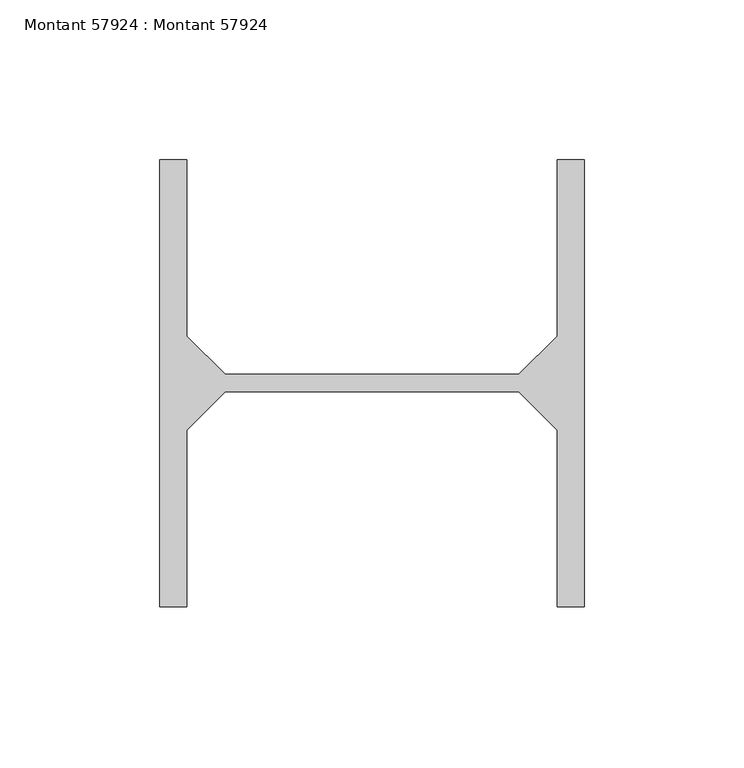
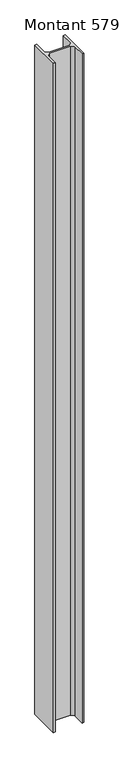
"""IFC4 building model written with IfcOpenShell, lengths in millimetres: beam geometry, Montant 57924 : Montant 57924."""

from ifc_helpers import new_model, si_unit, frame, origin, place, context, project, spatial, polyline, outline, extrude, source, transform, mapped, element, save


def montant_57924_montant_57924_06522adf(model_context):
    return source(origin(), model_context, "Body", "SweptSolid", [
        extrude(outline(polyline([(-52.0000001, -23656.0), (-52.0000001, -23600.75), (-64.0000001, -23588.75), (-156.0000001, -23588.75), (-168.0000001, -23600.75), (-168.0000001, -23656.0), (-176.5000001, -23656.0), (-176.5000001, -23516.0), (-168.0000001, -23516.0), (-168.0000001, -23571.25), (-156.0000001, -23583.25), (-64.0000001, -23583.25), (-52.0000001, -23571.25), (-52.0000001, -23516.0), (-43.5000001, -23516.0), (-43.5000001, -23656.0), (-52.0000001, -23656.0)])), frame((0.0, 0.0, 5333.0), z_axis=(0.0, 0.0, 1.0), x_axis=(1.0, 0.0, 0.0)), (0.0, 0.0, 1.0), 3084.0),
    ])


if __name__ == "__main__":
    model = new_model("IFC4")
    model_context = context("Model", 3, world=origin())
    ifc_project = project(units=[si_unit("LENGTHUNIT", "METRE", prefix="MILLI")], contexts=[model_context])
    site = spatial("IfcSite", under=ifc_project)
    building = spatial("IfcBuilding", under=site)
    placement = place(None, origin())
    montant_57924_montant_57924_shape = montant_57924_montant_57924_06522adf(model_context)
    element("IfcBeam", 1, ObjectType="Montant 57924 : Montant 57924", at=placement, inside=building, context=model_context, shape_type="MappedRepresentation", body=[
        mapped(montant_57924_montant_57924_shape, transform((0.0, 0.0, 0.0), x_axis=(1.0, 0.0, 0.0), y_axis=(0.0, 1.0, 0.0), z_axis=(0.0, 0.0, 1.0))),
    ])
    save(model, "model.ifc")
